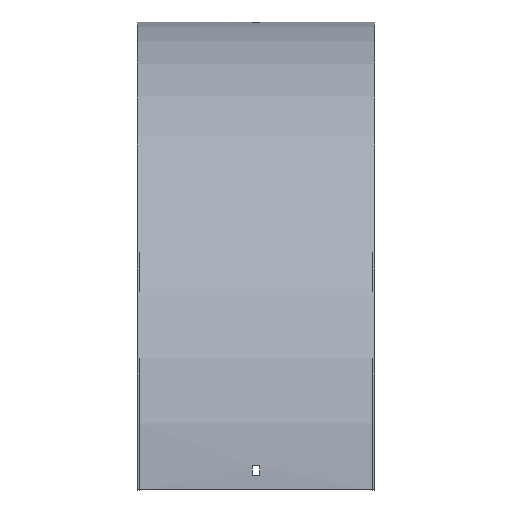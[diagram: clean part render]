
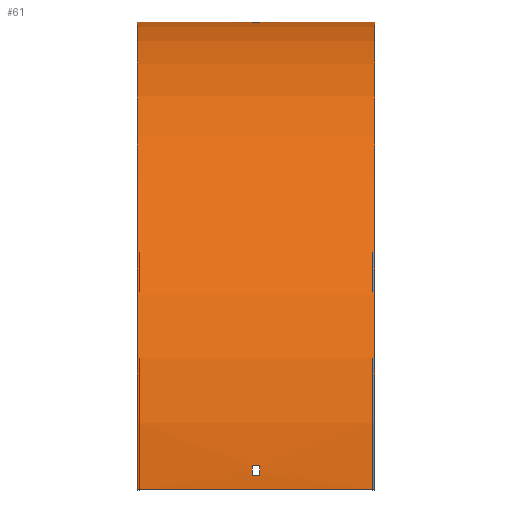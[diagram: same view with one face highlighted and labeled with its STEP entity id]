
A CAD part, top view. The second image highlights one B-rep face of the part: STEP entity #61.
In plain terms, the highlighted cylindrical face has radius 401.5 mm (diameter 803 mm), a partial arc.
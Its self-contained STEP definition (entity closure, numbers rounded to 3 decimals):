
#10 = CIRCLE ( 'NONE', #126, 401.5 ) ;
#25 = VERTEX_POINT ( 'NONE', #387 ) ;
#50 = VERTEX_POINT ( 'NONE', #285 ) ;
#61 = ADVANCED_FACE ( 'NONE', ( #292, #441, #496 ), #409, .T. ) ;
#64 = CARTESIAN_POINT ( 'NONE',  ( 101.5, 0., 0. ) ) ;
#66 = CIRCLE ( 'NONE', #489, 401.5 ) ;
#68 = DIRECTION ( 'NONE',  ( -1., 0., 0. ) ) ;
#74 = DIRECTION ( 'NONE',  ( -1., 0., 0. ) ) ;
#76 = VECTOR ( 'NONE', #270, 1000. ) ;
#79 = EDGE_CURVE ( 'NONE', #328, #125, #163, .T. ) ;
#88 = EDGE_CURVE ( 'NONE', #526, #50, #10, .T. ) ;
#93 = ORIENTED_EDGE ( 'NONE', *, *, #129, .T. ) ;
#94 = DIRECTION ( 'NONE',  ( 0., 0., -1. ) ) ;
#99 = EDGE_CURVE ( 'NONE', #570, #536, #307, .T. ) ;
#107 = DIRECTION ( 'NONE',  ( -1., 0., 0. ) ) ;
#113 = DIRECTION ( 'NONE',  ( -1., 0., 0. ) ) ;
#116 = CARTESIAN_POINT ( 'NONE',  ( -3.25, -389.5, 401.321 ) ) ;
#125 = VERTEX_POINT ( 'NONE', #450 ) ;
#126 = AXIS2_PLACEMENT_3D ( 'NONE', #551, #490, #445 ) ;
#129 = EDGE_CURVE ( 'NONE', #125, #565, #356, .T. ) ;
#130 = LINE ( 'NONE', #414, #282 ) ;
#131 = ORIENTED_EDGE ( 'NONE', *, *, #79, .T. ) ;
#133 = AXIS2_PLACEMENT_3D ( 'NONE', #492, #258, #437 ) ;
#140 = EDGE_CURVE ( 'NONE', #151, #570, #592, .T. ) ;
#142 = VECTOR ( 'NONE', #210, 1000. ) ;
#151 = VERTEX_POINT ( 'NONE', #227 ) ;
#163 = CIRCLE ( 'NONE', #233, 401.5 ) ;
#170 = CARTESIAN_POINT ( 'NONE',  ( 101.5, -380.5, 400.95 ) ) ;
#178 = CARTESIAN_POINT ( 'NONE',  ( 101.5, -401.5, 401.5 ) ) ;
#182 = EDGE_CURVE ( 'NONE', #567, #328, #130, .T. ) ;
#192 = LINE ( 'NONE', #389, #393 ) ;
#201 = EDGE_LOOP ( 'NONE', ( #93, #517, #579, #131 ) ) ;
#205 = CARTESIAN_POINT ( 'NONE',  ( 101.5, -0.55, 21. ) ) ;
#210 = DIRECTION ( 'NONE',  ( -1., 0., 0. ) ) ;
#215 = DIRECTION ( 'NONE',  ( 0., 0., 1. ) ) ;
#217 = CARTESIAN_POINT ( 'NONE',  ( -3.25, -380.5, 400.95 ) ) ;
#222 = CIRCLE ( 'NONE', #133, 401.5 ) ;
#227 = CARTESIAN_POINT ( 'NONE',  ( 3.25, -389.5, 401.321 ) ) ;
#228 = VERTEX_POINT ( 'NONE', #178 ) ;
#233 = AXIS2_PLACEMENT_3D ( 'NONE', #263, #542, #582 ) ;
#246 = CARTESIAN_POINT ( 'NONE',  ( -3.25, -401.5, 0. ) ) ;
#254 = AXIS2_PLACEMENT_3D ( 'NONE', #361, #364, #301 ) ;
#257 = DIRECTION ( 'NONE',  ( 0., 0., 1. ) ) ;
#258 = DIRECTION ( 'NONE',  ( 1., 0., 0. ) ) ;
#263 = CARTESIAN_POINT ( 'NONE',  ( 3.25, -401.5, 0. ) ) ;
#264 = EDGE_CURVE ( 'NONE', #25, #228, #66, .T. ) ;
#267 = AXIS2_PLACEMENT_3D ( 'NONE', #246, #68, #257 ) ;
#268 = CARTESIAN_POINT ( 'NONE',  ( 101.5, -401.5, 0. ) ) ;
#270 = DIRECTION ( 'NONE',  ( 1., 0., 0. ) ) ;
#273 = CARTESIAN_POINT ( 'NONE',  ( 101.5, -389.5, 401.321 ) ) ;
#282 = VECTOR ( 'NONE', #322, 1000. ) ;
#285 = CARTESIAN_POINT ( 'NONE',  ( -101.5, -401.5, 401.5 ) ) ;
#292 = FACE_OUTER_BOUND ( 'NONE', #375, .T. ) ;
#300 = ORIENTED_EDGE ( 'NONE', *, *, #88, .T. ) ;
#301 = DIRECTION ( 'NONE',  ( 0., 0., 1. ) ) ;
#307 = LINE ( 'NONE', #170, #142 ) ;
#312 = LINE ( 'NONE', #273, #76 ) ;
#318 = EDGE_CURVE ( 'NONE', #536, #338, #222, .T. ) ;
#322 = DIRECTION ( 'NONE',  ( 1., 0., 0. ) ) ;
#323 = ORIENTED_EDGE ( 'NONE', *, *, #587, .F. ) ;
#328 = VERTEX_POINT ( 'NONE', #430 ) ;
#338 = VERTEX_POINT ( 'NONE', #116 ) ;
#344 = VECTOR ( 'NONE', #113, 1000. ) ;
#348 = ORIENTED_EDGE ( 'NONE', *, *, #264, .F. ) ;
#356 = LINE ( 'NONE', #205, #344 ) ;
#361 = CARTESIAN_POINT ( 'NONE',  ( 3.25, -401.5, 0. ) ) ;
#364 = DIRECTION ( 'NONE',  ( -1., 0., 0. ) ) ;
#373 = CARTESIAN_POINT ( 'NONE',  ( 3.25, -380.5, 400.95 ) ) ;
#375 = EDGE_LOOP ( 'NONE', ( #300, #390, #348, #398 ) ) ;
#384 = ORIENTED_EDGE ( 'NONE', *, *, #140, .F. ) ;
#386 = ORIENTED_EDGE ( 'NONE', *, *, #318, .F. ) ;
#387 = CARTESIAN_POINT ( 'NONE',  ( 101.5, 0., 0. ) ) ;
#389 = CARTESIAN_POINT ( 'NONE',  ( 101.5, -401.5, 401.5 ) ) ;
#390 = ORIENTED_EDGE ( 'NONE', *, *, #501, .F. ) ;
#393 = VECTOR ( 'NONE', #107, 1000. ) ;
#394 = DIRECTION ( 'NONE',  ( -1., 0., 0. ) ) ;
#398 = ORIENTED_EDGE ( 'NONE', *, *, #429, .T. ) ;
#409 = CYLINDRICAL_SURFACE ( 'NONE', #451, 401.5 ) ;
#411 = CARTESIAN_POINT ( 'NONE',  ( -3.25, -0.179, 12. ) ) ;
#414 = CARTESIAN_POINT ( 'NONE',  ( 101.5, -0.179, 12. ) ) ;
#422 = DIRECTION ( 'NONE',  ( 1., 0., 0. ) ) ;
#425 = VECTOR ( 'NONE', #394, 1000. ) ;
#429 = EDGE_CURVE ( 'NONE', #25, #526, #444, .T. ) ;
#430 = CARTESIAN_POINT ( 'NONE',  ( 3.25, -0.179, 12. ) ) ;
#437 = DIRECTION ( 'NONE',  ( 0., 1., 0. ) ) ;
#441 = FACE_BOUND ( 'NONE', #201, .T. ) ;
#444 = LINE ( 'NONE', #64, #425 ) ;
#445 = DIRECTION ( 'NONE',  ( 0., 0., -1. ) ) ;
#450 = CARTESIAN_POINT ( 'NONE',  ( 3.25, -0.55, 21. ) ) ;
#451 = AXIS2_PLACEMENT_3D ( 'NONE', #268, #74, #215 ) ;
#471 = ORIENTED_EDGE ( 'NONE', *, *, #99, .F. ) ;
#473 = EDGE_CURVE ( 'NONE', #565, #567, #477, .T. ) ;
#477 = CIRCLE ( 'NONE', #267, 401.5 ) ;
#489 = AXIS2_PLACEMENT_3D ( 'NONE', #516, #422, #94 ) ;
#490 = DIRECTION ( 'NONE',  ( 1., 0., 0. ) ) ;
#492 = CARTESIAN_POINT ( 'NONE',  ( -3.25, -401.5, 0. ) ) ;
#496 = FACE_BOUND ( 'NONE', #596, .T. ) ;
#501 = EDGE_CURVE ( 'NONE', #228, #50, #192, .T. ) ;
#507 = CARTESIAN_POINT ( 'NONE',  ( -101.5, 0., 0. ) ) ;
#516 = CARTESIAN_POINT ( 'NONE',  ( 101.5, -401.5, 0. ) ) ;
#517 = ORIENTED_EDGE ( 'NONE', *, *, #473, .T. ) ;
#526 = VERTEX_POINT ( 'NONE', #507 ) ;
#536 = VERTEX_POINT ( 'NONE', #217 ) ;
#542 = DIRECTION ( 'NONE',  ( 1., 0., 0. ) ) ;
#550 = CARTESIAN_POINT ( 'NONE',  ( -3.25, -0.55, 21. ) ) ;
#551 = CARTESIAN_POINT ( 'NONE',  ( -101.5, -401.5, 0. ) ) ;
#565 = VERTEX_POINT ( 'NONE', #550 ) ;
#567 = VERTEX_POINT ( 'NONE', #411 ) ;
#570 = VERTEX_POINT ( 'NONE', #373 ) ;
#579 = ORIENTED_EDGE ( 'NONE', *, *, #182, .T. ) ;
#582 = DIRECTION ( 'NONE',  ( 0., 0., -1. ) ) ;
#587 = EDGE_CURVE ( 'NONE', #338, #151, #312, .T. ) ;
#592 = CIRCLE ( 'NONE', #254, 401.5 ) ;
#596 = EDGE_LOOP ( 'NONE', ( #386, #471, #384, #323 ) ) ;
